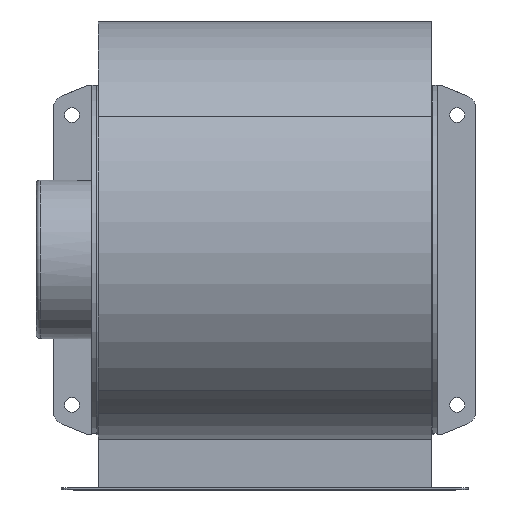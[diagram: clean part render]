
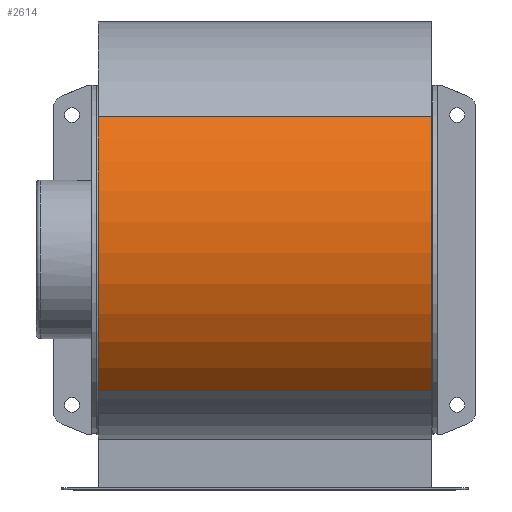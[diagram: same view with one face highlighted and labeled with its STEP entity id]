
A CAD part, top view. The second image highlights one B-rep face of the part: STEP entity #2614.
In plain terms, the highlighted free-form (B-spline) face has degree [3, 1] with [11, 2] control points.
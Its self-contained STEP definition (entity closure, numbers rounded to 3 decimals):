
#69=B_SPLINE_CURVE_WITH_KNOTS('',3,(#4131,#4132,#4133,#4134,#4135,#4136,
#4137,#4138,#4139,#4140,#4141),.UNSPECIFIED.,.F.,.F.,(4,1,1,1,1,1,1,1,4),
(0.,0.038,0.119,0.224,0.361,
0.51,0.679,0.894,1.),.UNSPECIFIED.);
#70=B_SPLINE_CURVE_WITH_KNOTS('',3,(#4143,#4144,#4145,#4146,#4147,#4148,
#4149,#4150,#4151,#4152,#4153),.UNSPECIFIED.,.F.,.F.,(4,1,1,1,1,1,1,1,4),
(0.,0.038,0.119,0.224,0.361,
0.51,0.679,0.894,1.),.UNSPECIFIED.);
#81=B_SPLINE_SURFACE_WITH_KNOTS('',3,1,((#4109,#4110),(#4111,#4112),(#4113,
#4114),(#4115,#4116),(#4117,#4118),(#4119,#4120),(#4121,#4122),(#4123,#4124),
(#4125,#4126),(#4127,#4128),(#4129,#4130)),.SURF_OF_LINEAR_EXTRUSION.,.F.,
 .F.,.F.,(4,1,1,1,1,1,1,1,4),(2,2),(0.,0.038,0.119,
0.224,0.361,0.51,0.679,0.894,
1.),(0.,1.),.UNSPECIFIED.);
#100=LINE('',#4108,#244);
#101=LINE('',#4155,#245);
#244=VECTOR('',#3247,1000.);
#245=VECTOR('',#3248,1000.);
#471=ORIENTED_EDGE('',*,*,#1157,.F.);
#472=ORIENTED_EDGE('',*,*,#1156,.F.);
#473=ORIENTED_EDGE('',*,*,#1158,.T.);
#474=ORIENTED_EDGE('',*,*,#1159,.T.);
#1156=EDGE_CURVE('',#1498,#1497,#100,.T.);
#1157=EDGE_CURVE('',#1497,#1499,#69,.T.);
#1158=EDGE_CURVE('',#1498,#1500,#70,.T.);
#1159=EDGE_CURVE('',#1500,#1499,#101,.T.);
#1497=VERTEX_POINT('',#4105);
#1498=VERTEX_POINT('',#4107);
#1499=VERTEX_POINT('',#4142);
#1500=VERTEX_POINT('',#4154);
#1929=EDGE_LOOP('',(#471,#472,#473,#474));
#2235=FACE_BOUND('',#1929,.T.);
#2614=ADVANCED_FACE('',(#2235),#81,.T.);
#3247=DIRECTION('',(-1.,0.,0.));
#3248=DIRECTION('',(-1.,0.,0.));
#4105=CARTESIAN_POINT('',(-135.,-106.624,114.796));
#4107=CARTESIAN_POINT('',(135.,-106.624,114.796));
#4108=CARTESIAN_POINT('',(135.,-106.624,114.796));
#4109=CARTESIAN_POINT('',(135.,-106.624,114.796));
#4110=CARTESIAN_POINT('',(-135.,-106.624,114.796));
#4111=CARTESIAN_POINT('',(135.,-104.519,117.059));
#4112=CARTESIAN_POINT('',(-135.,-104.519,117.059));
#4113=CARTESIAN_POINT('',(135.,-97.924,124.145));
#4114=CARTESIAN_POINT('',(-135.,-97.924,124.145));
#4115=CARTESIAN_POINT('',(135.,-84.139,136.15));
#4116=CARTESIAN_POINT('',(-135.,-84.139,136.15));
#4117=CARTESIAN_POINT('',(135.,-62.138,150.627));
#4118=CARTESIAN_POINT('',(-135.,-62.138,150.627));
#4119=CARTESIAN_POINT('',(135.,-32.645,163.059));
#4120=CARTESIAN_POINT('',(-135.,-32.645,163.059));
#4121=CARTESIAN_POINT('',(135.,4.03,169.833));
#4122=CARTESIAN_POINT('',(-135.,4.03,169.833));
#4123=CARTESIAN_POINT('',(135.,47.631,167.603));
#4124=CARTESIAN_POINT('',(-135.,47.631,167.603));
#4125=CARTESIAN_POINT('',(135.,86.375,155.318));
#4126=CARTESIAN_POINT('',(-135.,86.375,155.318));
#4127=CARTESIAN_POINT('',(135.,108.295,141.129));
#4128=CARTESIAN_POINT('',(-135.,108.295,141.129));
#4129=CARTESIAN_POINT('',(135.,115.531,136.445));
#4130=CARTESIAN_POINT('',(-135.,115.531,136.445));
#4131=CARTESIAN_POINT('',(-135.,-106.624,114.796));
#4132=CARTESIAN_POINT('',(-135.,-104.519,117.059));
#4133=CARTESIAN_POINT('',(-135.,-97.924,124.145));
#4134=CARTESIAN_POINT('',(-135.,-84.139,136.15));
#4135=CARTESIAN_POINT('',(-135.,-62.138,150.627));
#4136=CARTESIAN_POINT('',(-135.,-32.645,163.059));
#4137=CARTESIAN_POINT('',(-135.,4.03,169.833));
#4138=CARTESIAN_POINT('',(-135.,47.631,167.603));
#4139=CARTESIAN_POINT('',(-135.,86.375,155.318));
#4140=CARTESIAN_POINT('',(-135.,108.295,141.129));
#4141=CARTESIAN_POINT('',(-135.,115.531,136.445));
#4142=CARTESIAN_POINT('',(-135.,115.531,136.445));
#4143=CARTESIAN_POINT('',(135.,-106.624,114.796));
#4144=CARTESIAN_POINT('',(135.,-104.519,117.059));
#4145=CARTESIAN_POINT('',(135.,-97.924,124.145));
#4146=CARTESIAN_POINT('',(135.,-84.139,136.15));
#4147=CARTESIAN_POINT('',(135.,-62.138,150.627));
#4148=CARTESIAN_POINT('',(135.,-32.645,163.059));
#4149=CARTESIAN_POINT('',(135.,4.03,169.833));
#4150=CARTESIAN_POINT('',(135.,47.631,167.603));
#4151=CARTESIAN_POINT('',(135.,86.375,155.318));
#4152=CARTESIAN_POINT('',(135.,108.295,141.129));
#4153=CARTESIAN_POINT('',(135.,115.531,136.445));
#4154=CARTESIAN_POINT('',(135.,115.531,136.445));
#4155=CARTESIAN_POINT('',(135.,115.531,136.445));
